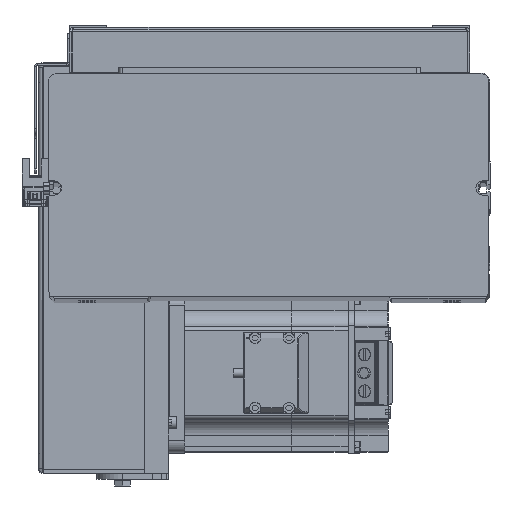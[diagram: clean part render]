
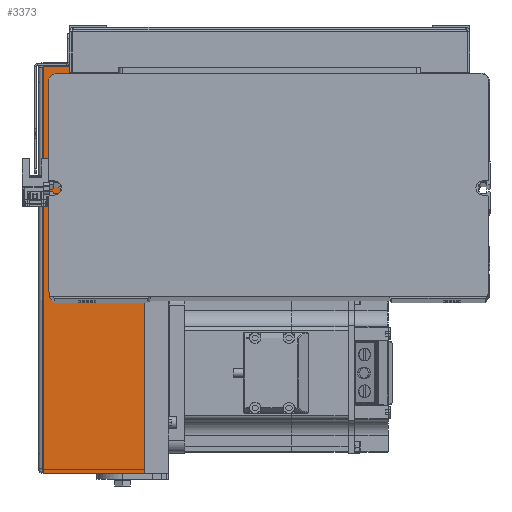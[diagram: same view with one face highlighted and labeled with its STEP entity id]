
A CAD part, top view. The second image highlights one B-rep face of the part: STEP entity #3373.
In plain terms, the highlighted planar face has unit normal (0, 0, 1) as drawn and (0, -1, 0) by its records, which use the part's own axes.
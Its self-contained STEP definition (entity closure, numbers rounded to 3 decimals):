
#3373 = ADVANCED_FACE ( 'NONE', ( #17168 ), #5312, .F. ) ;
#4541 = VECTOR ( 'NONE', #38713, 1000. ) ;
#5312 = PLANE ( 'NONE',  #36199 ) ;
#5326 = DIRECTION ( 'NONE',  ( 1., 0., 0. ) ) ;
#8579 = EDGE_LOOP ( 'NONE', ( #25565, #18238, #40461, #19965 ) ) ;
#8625 = EDGE_CURVE ( 'NONE', #12504, #32673, #11993, .T. ) ;
#10422 = VECTOR ( 'NONE', #47606, 1000. ) ;
#10709 = EDGE_CURVE ( 'NONE', #26703, #22032, #32205, .T. ) ;
#11993 = LINE ( 'NONE', #42733, #4541 ) ;
#12101 = CARTESIAN_POINT ( 'NONE',  ( -102.5, -54., 62.7 ) ) ;
#12504 = VERTEX_POINT ( 'NONE', #12101 ) ;
#13382 = DIRECTION ( 'NONE',  ( 0., 1., 0. ) ) ;
#15653 = VECTOR ( 'NONE', #5326, 1000. ) ;
#16759 = LINE ( 'NONE', #42946, #43591 ) ;
#17168 = FACE_OUTER_BOUND ( 'NONE', #8579, .T. ) ;
#18238 = ORIENTED_EDGE ( 'NONE', *, *, #8625, .T. ) ;
#19965 = ORIENTED_EDGE ( 'NONE', *, *, #10709, .F. ) ;
#20240 = EDGE_CURVE ( 'NONE', #12504, #26703, #16759, .T. ) ;
#22032 = VERTEX_POINT ( 'NONE', #46500 ) ;
#23794 = DIRECTION ( 'NONE',  ( 1., 0., 0. ) ) ;
#25565 = ORIENTED_EDGE ( 'NONE', *, *, #20240, .F. ) ;
#26703 = VERTEX_POINT ( 'NONE', #41403 ) ;
#26838 = CARTESIAN_POINT ( 'NONE',  ( -102.5, -54., 12. ) ) ;
#28717 = DIRECTION ( 'NONE',  ( 0., 0., -1. ) ) ;
#32205 = LINE ( 'NONE', #39771, #10422 ) ;
#32673 = VERTEX_POINT ( 'NONE', #26838 ) ;
#35824 = LINE ( 'NONE', #36329, #15653 ) ;
#36199 = AXIS2_PLACEMENT_3D ( 'NONE', #47911, #13382, #28717 ) ;
#36329 = CARTESIAN_POINT ( 'NONE',  ( 0., -54., 12. ) ) ;
#38713 = DIRECTION ( 'NONE',  ( 0., 0., -1. ) ) ;
#39771 = CARTESIAN_POINT ( 'NONE',  ( 102.5, -54., 62.7 ) ) ;
#40461 = ORIENTED_EDGE ( 'NONE', *, *, #41203, .T. ) ;
#41203 = EDGE_CURVE ( 'NONE', #32673, #22032, #35824, .T. ) ;
#41403 = CARTESIAN_POINT ( 'NONE',  ( 102.5, -54., 62.7 ) ) ;
#42733 = CARTESIAN_POINT ( 'NONE',  ( -102.5, -54., 62.7 ) ) ;
#42946 = CARTESIAN_POINT ( 'NONE',  ( 102.5, -54., 62.7 ) ) ;
#43591 = VECTOR ( 'NONE', #23794, 1000. ) ;
#46500 = CARTESIAN_POINT ( 'NONE',  ( 102.5, -54., 12. ) ) ;
#47606 = DIRECTION ( 'NONE',  ( 0., 0., -1. ) ) ;
#47911 = CARTESIAN_POINT ( 'NONE',  ( 0., -54., 63. ) ) ;
